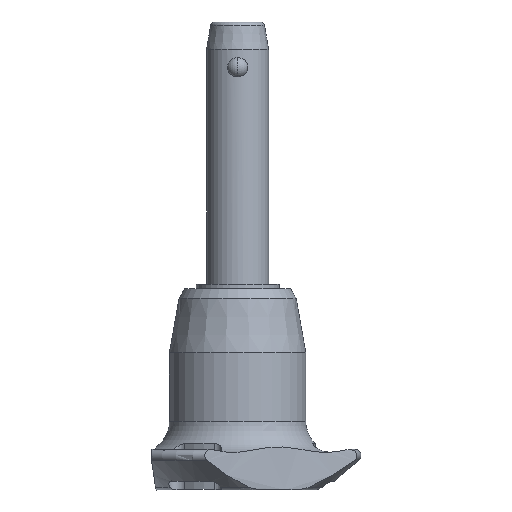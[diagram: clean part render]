
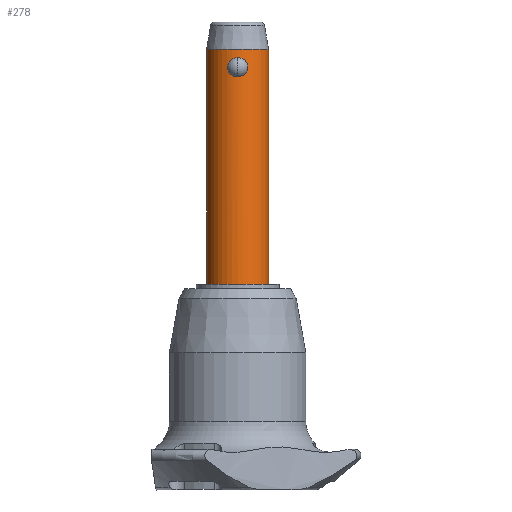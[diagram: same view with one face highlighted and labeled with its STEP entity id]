
A CAD part, front view. The second image highlights one B-rep face of the part: STEP entity #278.
In plain terms, the highlighted cylindrical face has radius 6 mm (diameter 12 mm), a partial arc.
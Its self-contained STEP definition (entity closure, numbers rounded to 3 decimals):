
#2 = CARTESIAN_POINT ( 'NONE',  ( 1.543, -5.799, 0.699 ) ) ;
#35 = CARTESIAN_POINT ( 'NONE',  ( 0., -6., 3.708 ) ) ;
#43 = EDGE_CURVE ( 'NONE', #680, #888, #763, .T. ) ;
#49 = EDGE_LOOP ( 'NONE', ( #2121, #948, #1357, #2425 ) ) ;
#59 = CARTESIAN_POINT ( 'NONE',  ( -0.252, -5.996, 3.697 ) ) ;
#102 = CARTESIAN_POINT ( 'NONE',  ( -1.551, -5.799, 0.69 ) ) ;
#187 = CARTESIAN_POINT ( 'NONE',  ( 0., 0., 5.3 ) ) ;
#275 = CARTESIAN_POINT ( 'NONE',  ( 1.942, -5.677, 2.103 ) ) ;
#278 = ADVANCED_FACE ( 'NONE', ( #703, #2028 ), #913, .T. ) ;
#310 = CARTESIAN_POINT ( 'NONE',  ( -1.852, -5.707, 1.239 ) ) ;
#354 = CARTESIAN_POINT ( 'NONE',  ( -1.955, -5.673, 1.731 ) ) ;
#394 = VERTEX_POINT ( 'NONE', #1847 ) ;
#397 = CARTESIAN_POINT ( 'NONE',  ( 6., 0., -40. ) ) ;
#470 = CARTESIAN_POINT ( 'NONE',  ( -1.177, -5.884, 3.347 ) ) ;
#489 = CARTESIAN_POINT ( 'NONE',  ( 0., -6., 3.708 ) ) ;
#527 = ORIENTED_EDGE ( 'NONE', *, *, #2618, .F. ) ;
#534 = CARTESIAN_POINT ( 'NONE',  ( 0.498, -5.981, 3.652 ) ) ;
#547 = CARTESIAN_POINT ( 'NONE',  ( 0.62, -5.969, 3.619 ) ) ;
#625 = DIRECTION ( 'NONE',  ( 0., 0., -1. ) ) ;
#636 = CARTESIAN_POINT ( 'NONE',  ( -6., 0., -40. ) ) ;
#655 = CARTESIAN_POINT ( 'NONE',  ( 0.503, -5.983, 0.045 ) ) ;
#680 = VERTEX_POINT ( 'NONE', #636 ) ;
#691 = CARTESIAN_POINT ( 'NONE',  ( -0.498, -5.981, 3.652 ) ) ;
#703 = FACE_OUTER_BOUND ( 'NONE', #49, .T. ) ;
#705 = VERTEX_POINT ( 'NONE', #489 ) ;
#717 = CARTESIAN_POINT ( 'NONE',  ( -0.127, -6., 3.708 ) ) ;
#739 = CARTESIAN_POINT ( 'NONE',  ( -6., 0., 5.3 ) ) ;
#744 = CARTESIAN_POINT ( 'NONE',  ( -0.853, -5.94, 0.177 ) ) ;
#763 = LINE ( 'NONE', #1175, #2743 ) ;
#768 = CARTESIAN_POINT ( 'NONE',  ( 1.901, -5.692, 1.35 ) ) ;
#791 = DIRECTION ( 'NONE',  ( 0., 0., -1. ) ) ;
#866 = CARTESIAN_POINT ( 'NONE',  ( 6., 0., -40. ) ) ;
#870 = LINE ( 'NONE', #397, #1364 ) ;
#883 = CARTESIAN_POINT ( 'NONE',  ( -1.46, -5.821, 3.103 ) ) ;
#888 = VERTEX_POINT ( 'NONE', #739 ) ;
#902 = CARTESIAN_POINT ( 'NONE',  ( -1.9, -5.692, 2.359 ) ) ;
#913 = CYLINDRICAL_SURFACE ( 'NONE', #2324, 6. ) ;
#920 = CARTESIAN_POINT ( 'NONE',  ( 0., -6., 0. ) ) ;
#935 = CARTESIAN_POINT ( 'NONE',  ( 1.7, -5.755, 2.812 ) ) ;
#943 = CARTESIAN_POINT ( 'NONE',  ( -0.854, -5.94, 3.53 ) ) ;
#948 = ORIENTED_EDGE ( 'NONE', *, *, #1968, .F. ) ;
#951 = CARTESIAN_POINT ( 'NONE',  ( 1.279, -5.863, 3.27 ) ) ;
#963 = CARTESIAN_POINT ( 'NONE',  ( 1.178, -5.884, 3.346 ) ) ;
#968 = CARTESIAN_POINT ( 'NONE',  ( -1.179, -5.884, 0.363 ) ) ;
#989 = CARTESIAN_POINT ( 'NONE',  ( 1.551, -5.799, 3.018 ) ) ;
#1092 = CARTESIAN_POINT ( 'NONE',  ( 1.277, -5.863, 0.437 ) ) ;
#1175 = CARTESIAN_POINT ( 'NONE',  ( -6., 0., -40. ) ) ;
#1185 = CARTESIAN_POINT ( 'NONE',  ( 6., 0., 5.3 ) ) ;
#1193 = B_SPLINE_CURVE_WITH_KNOTS ( 'NONE', 3,
 ( #920, #1812, #655, #1539, #1321, #2208, #1092, #1996, #2, #2523, #1886, #768, #1856, #2723, #275, #2088, #1633, #935, #989, #951, #963, #1606, #1871, #547, #534, #2766, #2075, #1378 ),
 .UNSPECIFIED., .F., .F.,
 ( 4, 2, 2, 2, 2, 2, 2, 2, 2, 2, 2, 2, 2, 4 ),
 ( 0.006, 0.007, 0.007, 0.008, 0.008, 0.008, 0.009, 0.009, 0.01, 0.011, 0.011, 0.011, 0.012, 0.012 ),
 .UNSPECIFIED. ) ;
#1216 = CARTESIAN_POINT ( 'NONE',  ( -1.278, -5.863, 0.437 ) ) ;
#1321 = CARTESIAN_POINT ( 'NONE',  ( 0.966, -5.923, 0.232 ) ) ;
#1341 = CARTESIAN_POINT ( 'NONE',  ( -1.687, -5.759, 2.809 ) ) ;
#1357 = ORIENTED_EDGE ( 'NONE', *, *, #2053, .T. ) ;
#1364 = VECTOR ( 'NONE', #1936, 1000. ) ;
#1378 = CARTESIAN_POINT ( 'NONE',  ( 0., -6., 3.708 ) ) ;
#1454 = CIRCLE ( 'NONE', #2291, 6. ) ;
#1465 = VERTEX_POINT ( 'NONE', #866 ) ;
#1466 = CARTESIAN_POINT ( 'NONE',  ( -1.89, -5.695, 1.358 ) ) ;
#1512 = DIRECTION ( 'NONE',  ( 1., 0., 0. ) ) ;
#1518 = EDGE_LOOP ( 'NONE', ( #527, #2042 ) ) ;
#1539 = CARTESIAN_POINT ( 'NONE',  ( 0.853, -5.94, 0.177 ) ) ;
#1572 = CARTESIAN_POINT ( 'NONE',  ( -0.62, -5.969, 3.619 ) ) ;
#1581 = DIRECTION ( 'NONE',  ( 0., 0., 1. ) ) ;
#1606 = CARTESIAN_POINT ( 'NONE',  ( 0.966, -5.923, 3.476 ) ) ;
#1620 = EDGE_CURVE ( 'NONE', #2621, #888, #2247, .T. ) ;
#1633 = CARTESIAN_POINT ( 'NONE',  ( 1.851, -5.708, 2.47 ) ) ;
#1666 = CARTESIAN_POINT ( 'NONE',  ( -1.942, -5.677, 1.604 ) ) ;
#1732 = AXIS2_PLACEMENT_3D ( 'NONE', #187, #625, #1512 ) ;
#1802 = EDGE_CURVE ( 'NONE', #394, #705, #1193, .T. ) ;
#1807 = CARTESIAN_POINT ( 'NONE',  ( -1.75, -5.74, 2.7 ) ) ;
#1812 = CARTESIAN_POINT ( 'NONE',  ( 0.25, -6., 0. ) ) ;
#1836 = CARTESIAN_POINT ( 'NONE',  ( -1.278, -5.863, 3.271 ) ) ;
#1847 = CARTESIAN_POINT ( 'NONE',  ( 0., -6., 0. ) ) ;
#1848 = CARTESIAN_POINT ( 'NONE',  ( -0.967, -5.923, 0.233 ) ) ;
#1850 = DIRECTION ( 'NONE',  ( 0., 0., 1. ) ) ;
#1856 = CARTESIAN_POINT ( 'NONE',  ( 1.955, -5.673, 1.6 ) ) ;
#1871 = CARTESIAN_POINT ( 'NONE',  ( 0.855, -5.94, 3.53 ) ) ;
#1886 = CARTESIAN_POINT ( 'NONE',  ( 1.749, -5.74, 1.007 ) ) ;
#1936 = DIRECTION ( 'NONE',  ( 0., 0., 1. ) ) ;
#1968 = EDGE_CURVE ( 'NONE', #1465, #680, #1454, .T. ) ;
#1996 = CARTESIAN_POINT ( 'NONE',  ( 1.459, -5.821, 0.604 ) ) ;
#2015 = CARTESIAN_POINT ( 'NONE',  ( -1.541, -5.799, 3.011 ) ) ;
#2028 = FACE_BOUND ( 'NONE', #1518, .T. ) ;
#2042 = ORIENTED_EDGE ( 'NONE', *, *, #1802, .F. ) ;
#2053 = EDGE_CURVE ( 'NONE', #1465, #2621, #870, .T. ) ;
#2075 = CARTESIAN_POINT ( 'NONE',  ( 0.127, -6., 3.708 ) ) ;
#2088 = CARTESIAN_POINT ( 'NONE',  ( 1.89, -5.695, 2.349 ) ) ;
#2108 = CARTESIAN_POINT ( 'NONE',  ( -0.25, -6., 0. ) ) ;
#2113 = CARTESIAN_POINT ( 'NONE',  ( 0., 0., -40. ) ) ;
#2117 = CARTESIAN_POINT ( 'NONE',  ( 0., -6., 0. ) ) ;
#2121 = ORIENTED_EDGE ( 'NONE', *, *, #43, .F. ) ;
#2208 = CARTESIAN_POINT ( 'NONE',  ( 1.178, -5.884, 0.362 ) ) ;
#2247 = CIRCLE ( 'NONE', #1732, 6. ) ;
#2282 = CARTESIAN_POINT ( 'NONE',  ( -0.966, -5.923, 3.476 ) ) ;
#2291 = AXIS2_PLACEMENT_3D ( 'NONE', #2113, #791, #2565 ) ;
#2324 = AXIS2_PLACEMENT_3D ( 'NONE', #2686, #1581, #2469 ) ;
#2350 = CARTESIAN_POINT ( 'NONE',  ( -1.7, -5.755, 0.895 ) ) ;
#2425 = ORIENTED_EDGE ( 'NONE', *, *, #1620, .T. ) ;
#2469 = DIRECTION ( 'NONE',  ( 1., 0., 0. ) ) ;
#2511 = CARTESIAN_POINT ( 'NONE',  ( -1.955, -5.673, 2.107 ) ) ;
#2523 = CARTESIAN_POINT ( 'NONE',  ( 1.687, -5.758, 0.899 ) ) ;
#2555 = CARTESIAN_POINT ( 'NONE',  ( -0.504, -5.983, 0.045 ) ) ;
#2565 = DIRECTION ( 'NONE',  ( 1., 0., 0. ) ) ;
#2618 = EDGE_CURVE ( 'NONE', #705, #394, #2732, .T. ) ;
#2621 = VERTEX_POINT ( 'NONE', #1185 ) ;
#2686 = CARTESIAN_POINT ( 'NONE',  ( 0., 0., -40. ) ) ;
#2723 = CARTESIAN_POINT ( 'NONE',  ( 1.955, -5.673, 1.979 ) ) ;
#2732 = B_SPLINE_CURVE_WITH_KNOTS ( 'NONE', 3,
 ( #35, #717, #59, #691, #1572, #943, #2282, #470, #1836, #883, #2015, #1341, #1807, #902, #2511, #354, #1666, #1466, #310, #2350, #102, #1216, #968, #1848, #744, #2555, #2108, #2117 ),
 .UNSPECIFIED., .F., .F.,
 ( 4, 2, 2, 2, 2, 2, 2, 2, 2, 2, 2, 2, 2, 4 ),
 ( 0., 0., 0.001, 0.001, 0.002, 0.002, 0.002, 0.003, 0.003, 0.004, 0.005, 0.005, 0.005, 0.006 ),
 .UNSPECIFIED. ) ;
#2743 = VECTOR ( 'NONE', #1850, 1000. ) ;
#2766 = CARTESIAN_POINT ( 'NONE',  ( 0.252, -5.996, 3.697 ) ) ;
